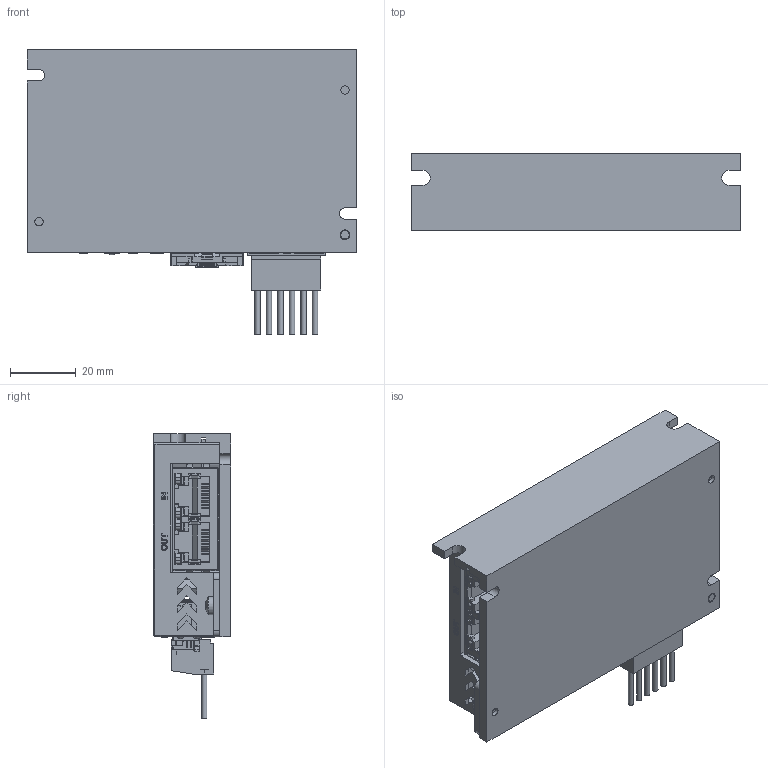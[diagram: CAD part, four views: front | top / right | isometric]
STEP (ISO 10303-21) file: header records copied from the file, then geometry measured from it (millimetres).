
FILE_DESCRIPTION (( 'STEP AP214' ), '1' );
FILE_NAME ('STF03_06-EC 3D.STEP', '2019-09-12T16:31:58', ( 'Kevin' ), ( 'Hewlett-Packard Company' ), 'SwSTEP 2.0', 'SolidWorks 2016', '' );
FILE_SCHEMA (( 'AUTOMOTIVE_DESIGN' ));
Length unit declared in the file: millimetre
Products named in the file (11): cross recessed pan head screws gb_GB_CROSS_SCREWS_TYPE1 M3X4-4  H type-N; cross recessed pan head screws gb_GB_CROSS_SCREWS_TYPE1 M3X4-4  H type-N_2; 3698201101537.A0HTTP; M3肣翐9EFHTTP; 3698201101526.A1HTTP; 4299970002278.A0HTTP; STF03_06-EC 3D; 4713101002271-A1-0904; 4713101002270-170919; 50164620002016.10.20EF; 6-3.5-gEF
Assembly tree (19 placements, depth 2):
  STF03_06-EC 3D
    4299970002278.A0HTTP
    3698201101526.A1HTTP
    M3肣翐9EFHTTP  x3
    3698201101537.A0HTTP  x4
    cross recessed pan head screws gb_GB_CROSS_SCREWS_TYPE1 M3X4-4  H type-N_2  x5
    cross recessed pan head screws gb_GB_CROSS_SCREWS_TYPE1 M3X4-4  H type-N
    6-3.5-gEF
    50164620002016.10.20EF
    4713101002270-170919
    4713101002271-A1-0904
Bounding box: 100 x 23.5 x 86.56 mm (x, y, z)
Volume: 63704.5 mm3; surface area: 75137.8 mm2
Topology: 29 solids, 29 shells, 3438 faces, 9183 edges, 5988 vertices
Faces by surface type: plane 2487, cylinder 664, bspline 268, cone 15, torus 4
Full cylindrical faces by diameter (mm): 0.8 x56, 0.85 x2, 0.9 x32, 1 x28, 1.1 x2, 1.3 x6, 1.6 x6, 1.65 x3, 2.4 x3, 2.5 x9, 2.9 x8, 3 x9, 3.2 x3, 3.25 x2, 3.3 x2, 3.5 x3, 5 x3, 5.6 x6
Entity records: 116892 total; most frequent: CARTESIAN_POINT 30057, ORIENTED_EDGE 17028, DIRECTION 14862, EDGE_CURVE 8514, LINE 6778, VECTOR 6778, VERTEX_POINT 5663, AXIS2_PLACEMENT_3D 4042
